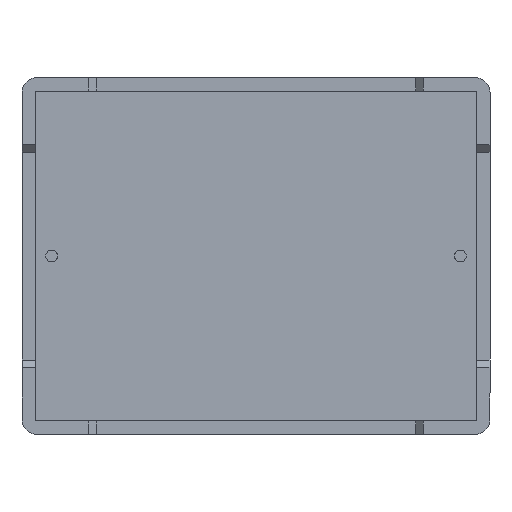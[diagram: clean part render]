
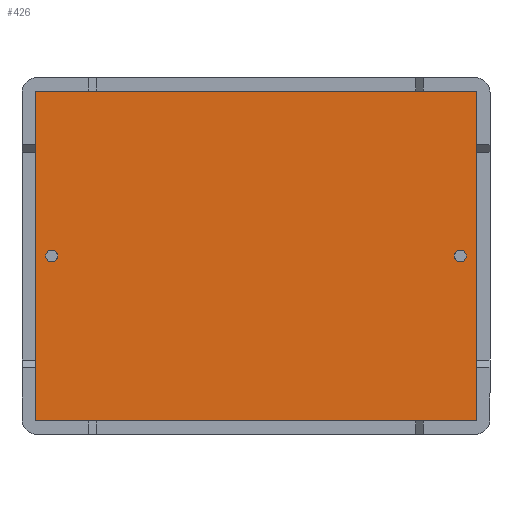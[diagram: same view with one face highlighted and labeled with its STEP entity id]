
A CAD part, front view. The second image highlights one B-rep face of the part: STEP entity #426.
In plain terms, the highlighted planar face has unit normal (0, -1, 0).
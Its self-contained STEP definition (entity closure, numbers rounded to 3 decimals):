
#135 = VECTOR ( 'NONE', #3111, 1000. ) ;
#176 = EDGE_CURVE ( 'NONE', #3962, #3910, #709, .T. ) ;
#228 = EDGE_CURVE ( 'NONE', #2488, #3288, #560, .T. ) ;
#272 = LINE ( 'NONE', #3395, #135 ) ;
#273 = EDGE_CURVE ( 'NONE', #2211, #2144, #272, .T. ) ;
#279 = AXIS2_PLACEMENT_3D ( 'NONE', #2778, #2745, #2739 ) ;
#306 = EDGE_CURVE ( 'NONE', #2568, #2611, #3826, .T. ) ;
#338 = EDGE_CURVE ( 'NONE', #1024, #1363, #3444, .T. ) ;
#349 = EDGE_CURVE ( 'NONE', #1436, #1255, #3104, .T. ) ;
#355 = EDGE_CURVE ( 'NONE', #2611, #2211, #3003, .T. ) ;
#357 = EDGE_CURVE ( 'NONE', #2144, #2488, #2890, .T. ) ;
#367 = EDGE_CURVE ( 'NONE', #3288, #3962, #3098, .T. ) ;
#375 = EDGE_CURVE ( 'NONE', #3910, #2568, #2693, .T. ) ;
#418 = CARTESIAN_POINT ( 'NONE',  ( 14.75, 1., 11.1 ) ) ;
#423 = VECTOR ( 'NONE', #2625, 1000. ) ;
#426 = ADVANCED_FACE ( 'NONE', ( #1929, #1873, #1837 ), #858, .T. ) ;
#524 = ORIENTED_EDGE ( 'NONE', *, *, #338, .F. ) ;
#528 = ORIENTED_EDGE ( 'NONE', *, *, #1568, .F. ) ;
#555 = ORIENTED_EDGE ( 'NONE', *, *, #349, .F. ) ;
#560 = LINE ( 'NONE', #733, #423 ) ;
#566 = ORIENTED_EDGE ( 'NONE', *, *, #1106, .F. ) ;
#572 = ORIENTED_EDGE ( 'NONE', *, *, #306, .T. ) ;
#573 = CIRCLE ( 'NONE', #2309, 0.4 ) ;
#580 = ORIENTED_EDGE ( 'NONE', *, *, #355, .T. ) ;
#583 = ORIENTED_EDGE ( 'NONE', *, *, #273, .T. ) ;
#585 = ORIENTED_EDGE ( 'NONE', *, *, #357, .T. ) ;
#610 = ORIENTED_EDGE ( 'NONE', *, *, #228, .T. ) ;
#625 = ORIENTED_EDGE ( 'NONE', *, *, #367, .T. ) ;
#630 = ORIENTED_EDGE ( 'NONE', *, *, #176, .T. ) ;
#691 = DIRECTION ( 'NONE',  ( 0., 0., -1. ) ) ;
#692 = DIRECTION ( 'NONE',  ( 0., -1., 0. ) ) ;
#709 = LINE ( 'NONE', #1008, #765 ) ;
#733 = CARTESIAN_POINT ( 'NONE',  ( 14.85, 1., -11.1 ) ) ;
#765 = VECTOR ( 'NONE', #1309, 1000. ) ;
#784 = CARTESIAN_POINT ( 'NONE',  ( 0., 1., 0. ) ) ;
#799 = AXIS2_PLACEMENT_3D ( 'NONE', #2720, #2716, #2713 ) ;
#858 = PLANE ( 'NONE',  #3617 ) ;
#1008 = CARTESIAN_POINT ( 'NONE',  ( 14.85, 1., 11.1 ) ) ;
#1024 = VERTEX_POINT ( 'NONE', #2803 ) ;
#1085 = AXIS2_PLACEMENT_3D ( 'NONE', #2620, #2619, #2589 ) ;
#1106 = EDGE_CURVE ( 'NONE', #1255, #1436, #2738, .T. ) ;
#1255 = VERTEX_POINT ( 'NONE', #1877 ) ;
#1309 = DIRECTION ( 'NONE',  ( -1., 0., 0. ) ) ;
#1342 = AXIS2_PLACEMENT_3D ( 'NONE', #2163, #2158, #2151 ) ;
#1363 = VERTEX_POINT ( 'NONE', #4058 ) ;
#1436 = VERTEX_POINT ( 'NONE', #4097 ) ;
#1477 = CARTESIAN_POINT ( 'NONE',  ( 14.75, 1., -11.1 ) ) ;
#1499 = DIRECTION ( 'NONE',  ( 0., -1., 0. ) ) ;
#1568 = EDGE_CURVE ( 'NONE', #1363, #1024, #573, .T. ) ;
#1837 = FACE_OUTER_BOUND ( 'NONE', #2192, .T. ) ;
#1853 = AXIS2_PLACEMENT_3D ( 'NONE', #3416, #1499, #3707 ) ;
#1873 = FACE_BOUND ( 'NONE', #2093, .T. ) ;
#1877 = CARTESIAN_POINT ( 'NONE',  ( -13.75, 1., -0.4 ) ) ;
#1929 = FACE_BOUND ( 'NONE', #2152, .T. ) ;
#2016 = CARTESIAN_POINT ( 'NONE',  ( 13.75, 1., 0. ) ) ;
#2093 = EDGE_LOOP ( 'NONE', ( #555, #566 ) ) ;
#2109 = AXIS2_PLACEMENT_3D ( 'NONE', #3119, #3099, #3092 ) ;
#2144 = VERTEX_POINT ( 'NONE', #1477 ) ;
#2151 = DIRECTION ( 'NONE',  ( 0., 0., -1. ) ) ;
#2152 = EDGE_LOOP ( 'NONE', ( #524, #528 ) ) ;
#2158 = DIRECTION ( 'NONE',  ( 0., -1., 0. ) ) ;
#2163 = CARTESIAN_POINT ( 'NONE',  ( -14.75, 1., 11. ) ) ;
#2192 = EDGE_LOOP ( 'NONE', ( #572, #580, #583, #585, #610, #625, #630, #2254 ) ) ;
#2211 = VERTEX_POINT ( 'NONE', #4244 ) ;
#2254 = ORIENTED_EDGE ( 'NONE', *, *, #375, .T. ) ;
#2309 = AXIS2_PLACEMENT_3D ( 'NONE', #2016, #4146, #2364 ) ;
#2364 = DIRECTION ( 'NONE',  ( 0., 0., -1. ) ) ;
#2413 = CARTESIAN_POINT ( 'NONE',  ( 14.85, 1., 11. ) ) ;
#2488 = VERTEX_POINT ( 'NONE', #3758 ) ;
#2568 = VERTEX_POINT ( 'NONE', #3477 ) ;
#2589 = DIRECTION ( 'NONE',  ( 0., 0., -1. ) ) ;
#2611 = VERTEX_POINT ( 'NONE', #2929 ) ;
#2619 = DIRECTION ( 'NONE',  ( 0., -1., 0. ) ) ;
#2620 = CARTESIAN_POINT ( 'NONE',  ( 14.75, 1., 11. ) ) ;
#2625 = DIRECTION ( 'NONE',  ( 0., 0., 1. ) ) ;
#2693 = CIRCLE ( 'NONE', #1342, 0.1 ) ;
#2713 = DIRECTION ( 'NONE',  ( 0., 0., -1. ) ) ;
#2716 = DIRECTION ( 'NONE',  ( 0., -1., 0. ) ) ;
#2720 = CARTESIAN_POINT ( 'NONE',  ( 14.75, 1., -11. ) ) ;
#2738 = CIRCLE ( 'NONE', #1853, 0.4 ) ;
#2739 = DIRECTION ( 'NONE',  ( 0., 0., -1. ) ) ;
#2745 = DIRECTION ( 'NONE',  ( 0., -1., 0. ) ) ;
#2778 = CARTESIAN_POINT ( 'NONE',  ( -14.75, 1., -11. ) ) ;
#2803 = CARTESIAN_POINT ( 'NONE',  ( 13.75, 1., 0.4 ) ) ;
#2836 = DIRECTION ( 'NONE',  ( 0., 0., -1. ) ) ;
#2842 = DIRECTION ( 'NONE',  ( 0., -1., 0. ) ) ;
#2844 = CARTESIAN_POINT ( 'NONE',  ( -13.75, 1., 0. ) ) ;
#2890 = CIRCLE ( 'NONE', #799, 0.1 ) ;
#2929 = CARTESIAN_POINT ( 'NONE',  ( -14.85, 1., -11. ) ) ;
#3003 = CIRCLE ( 'NONE', #279, 0.1 ) ;
#3092 = DIRECTION ( 'NONE',  ( 0., 0., -1. ) ) ;
#3098 = CIRCLE ( 'NONE', #1085, 0.1 ) ;
#3099 = DIRECTION ( 'NONE',  ( 0., -1., 0. ) ) ;
#3104 = CIRCLE ( 'NONE', #3948, 0.4 ) ;
#3111 = DIRECTION ( 'NONE',  ( 1., 0., 0. ) ) ;
#3119 = CARTESIAN_POINT ( 'NONE',  ( 13.75, 1., 0. ) ) ;
#3288 = VERTEX_POINT ( 'NONE', #2413 ) ;
#3395 = CARTESIAN_POINT ( 'NONE',  ( -14.85, 1., -11.1 ) ) ;
#3416 = CARTESIAN_POINT ( 'NONE',  ( -13.75, 1., 0. ) ) ;
#3444 = CIRCLE ( 'NONE', #2109, 0.4 ) ;
#3459 = CARTESIAN_POINT ( 'NONE',  ( -14.75, 1., 11.1 ) ) ;
#3477 = CARTESIAN_POINT ( 'NONE',  ( -14.85, 1., 11. ) ) ;
#3617 = AXIS2_PLACEMENT_3D ( 'NONE', #784, #692, #691 ) ;
#3707 = DIRECTION ( 'NONE',  ( 0., 0., -1. ) ) ;
#3758 = CARTESIAN_POINT ( 'NONE',  ( 14.85, 1., -11. ) ) ;
#3826 = LINE ( 'NONE', #4153, #3869 ) ;
#3869 = VECTOR ( 'NONE', #4169, 1000. ) ;
#3910 = VERTEX_POINT ( 'NONE', #3459 ) ;
#3948 = AXIS2_PLACEMENT_3D ( 'NONE', #2844, #2842, #2836 ) ;
#3962 = VERTEX_POINT ( 'NONE', #418 ) ;
#4058 = CARTESIAN_POINT ( 'NONE',  ( 13.75, 1., -0.4 ) ) ;
#4097 = CARTESIAN_POINT ( 'NONE',  ( -13.75, 1., 0.4 ) ) ;
#4146 = DIRECTION ( 'NONE',  ( 0., -1., 0. ) ) ;
#4153 = CARTESIAN_POINT ( 'NONE',  ( -14.85, 1., 11.1 ) ) ;
#4169 = DIRECTION ( 'NONE',  ( 0., 0., -1. ) ) ;
#4244 = CARTESIAN_POINT ( 'NONE',  ( -14.75, 1., -11.1 ) ) ;
